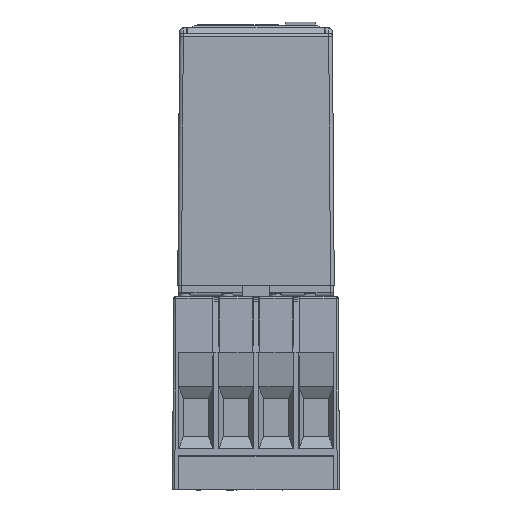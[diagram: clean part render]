
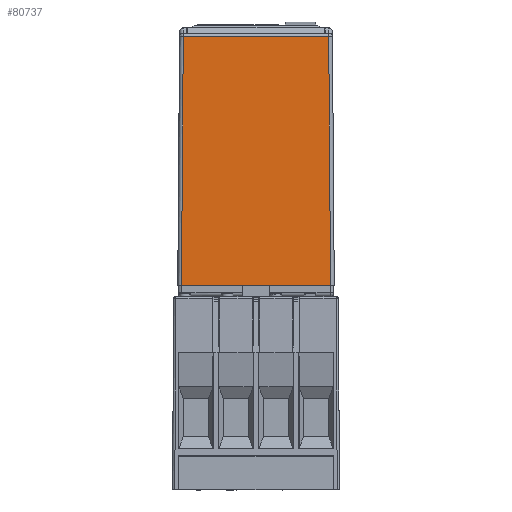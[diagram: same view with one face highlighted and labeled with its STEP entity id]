
A CAD part, front view. The second image highlights one B-rep face of the part: STEP entity #80737.
In plain terms, the highlighted planar face has unit normal (0, -1, 0.007).
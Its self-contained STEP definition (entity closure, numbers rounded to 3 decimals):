
#1637 = CARTESIAN_POINT ( 'NONE',  ( -10.05, -14.05, 1.5 ) ) ;
#7383 = VERTEX_POINT ( 'NONE', #71803 ) ;
#15880 = VECTOR ( 'NONE', #96500, 1000. ) ;
#16964 = LINE ( 'NONE', #34662, #36800 ) ;
#18948 = VERTEX_POINT ( 'NONE', #1637 ) ;
#20098 = ORIENTED_EDGE ( 'NONE', *, *, #34078, .F. ) ;
#20202 = CARTESIAN_POINT ( 'NONE',  ( -9.804, -13.804, 35.004 ) ) ;
#23185 = VECTOR ( 'NONE', #82482, 1000. ) ;
#32961 = AXIS2_PLACEMENT_3D ( 'NONE', #38026, #37684, #92476 ) ;
#34078 = EDGE_CURVE ( 'NONE', #18948, #100121, #82810, .T. ) ;
#34662 = CARTESIAN_POINT ( 'NONE',  ( 9.8, -13.8, 35.496 ) ) ;
#35425 = CARTESIAN_POINT ( 'NONE',  ( 10.05, -14.05, 1.5 ) ) ;
#36800 = VECTOR ( 'NONE', #50941, 1000. ) ;
#37575 = EDGE_LOOP ( 'NONE', ( #75393, #80018, #20098, #73306 ) ) ;
#37684 = DIRECTION ( 'NONE',  ( 0., 1., -0.007 ) ) ;
#38026 = CARTESIAN_POINT ( 'NONE',  ( 10.3, -13.8, 35.5 ) ) ;
#41236 = LINE ( 'NONE', #82636, #80957 ) ;
#50941 = DIRECTION ( 'NONE',  ( 0.007, -0.007, -1. ) ) ;
#58332 = DIRECTION ( 'NONE',  ( 1., 0., 0. ) ) ;
#59173 = FACE_OUTER_BOUND ( 'NONE', #37575, .T. ) ;
#59550 = CARTESIAN_POINT ( 'NONE',  ( -10.05, -14.05, 1.5 ) ) ;
#61928 = PLANE ( 'NONE',  #32961 ) ;
#71803 = CARTESIAN_POINT ( 'NONE',  ( 9.804, -13.804, 35.004 ) ) ;
#73306 = ORIENTED_EDGE ( 'NONE', *, *, #92956, .T. ) ;
#75393 = ORIENTED_EDGE ( 'NONE', *, *, #97470, .F. ) ;
#80018 = ORIENTED_EDGE ( 'NONE', *, *, #96549, .F. ) ;
#80737 = ADVANCED_FACE ( 'NONE', ( #59173 ), #61928, .F. ) ;
#80957 = VECTOR ( 'NONE', #58332, 1000. ) ;
#82482 = DIRECTION ( 'NONE',  ( 0.007, 0.007, 1. ) ) ;
#82636 = CARTESIAN_POINT ( 'NONE',  ( -10.55, -14.05, 1.5 ) ) ;
#82810 = LINE ( 'NONE', #59550, #23185 ) ;
#90293 = LINE ( 'NONE', #94132, #15880 ) ;
#92476 = DIRECTION ( 'NONE',  ( 0., 0.007, 1. ) ) ;
#92956 = EDGE_CURVE ( 'NONE', #18948, #98400, #41236, .T. ) ;
#94132 = CARTESIAN_POINT ( 'NONE',  ( 10.3, -13.804, 35.004 ) ) ;
#96500 = DIRECTION ( 'NONE',  ( 1., 0., 0. ) ) ;
#96549 = EDGE_CURVE ( 'NONE', #100121, #7383, #90293, .T. ) ;
#97470 = EDGE_CURVE ( 'NONE', #7383, #98400, #16964, .T. ) ;
#98400 = VERTEX_POINT ( 'NONE', #35425 ) ;
#100121 = VERTEX_POINT ( 'NONE', #20202 ) ;
